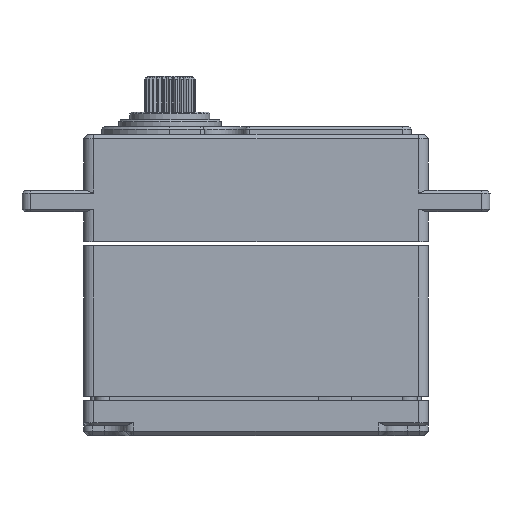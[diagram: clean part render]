
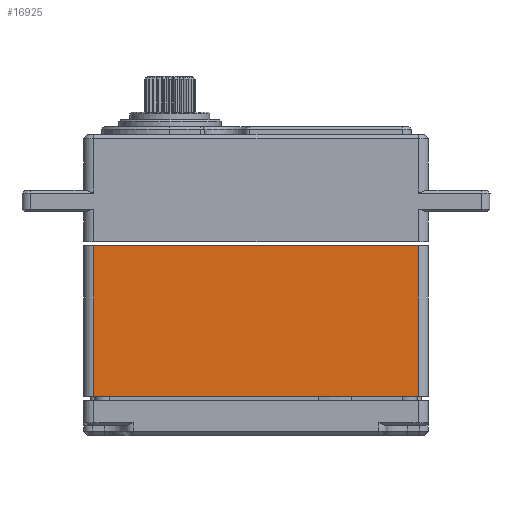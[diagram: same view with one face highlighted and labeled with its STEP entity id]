
A CAD part, front view. The second image highlights one B-rep face of the part: STEP entity #16925.
In plain terms, the highlighted planar face has unit normal (0, -1, 0).
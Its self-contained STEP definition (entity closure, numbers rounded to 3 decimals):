
#576 = DIRECTION ( 'NONE',  ( 0., 0., 1. ) ) ;
#842 = DIRECTION ( 'NONE',  ( 1., 0., 0. ) ) ;
#1919 = VECTOR ( 'NONE', #16546, 1000. ) ;
#2587 = ORIENTED_EDGE ( 'NONE', *, *, #9077, .T. ) ;
#2991 = LINE ( 'NONE', #10972, #17277 ) ;
#3475 = VERTEX_POINT ( 'NONE', #4773 ) ;
#3891 = LINE ( 'NONE', #5043, #13069 ) ;
#4773 = CARTESIAN_POINT ( 'NONE',  ( 7.732, -10.549, 6.95 ) ) ;
#5043 = CARTESIAN_POINT ( 'NONE',  ( 45.832, -10.549, 6.95 ) ) ;
#5560 = LINE ( 'NONE', #15120, #1919 ) ;
#6097 = PLANE ( 'NONE',  #16532 ) ;
#6184 = EDGE_LOOP ( 'NONE', ( #17652, #17047, #18657, #2587 ) ) ;
#6913 = EDGE_CURVE ( 'NONE', #16254, #10832, #19711, .T. ) ;
#6961 = CARTESIAN_POINT ( 'NONE',  ( 45.832, -10.549, -10.75 ) ) ;
#7092 = FACE_OUTER_BOUND ( 'NONE', #6184, .T. ) ;
#8793 = CARTESIAN_POINT ( 'NONE',  ( 7.732, -10.549, -10.75 ) ) ;
#9077 = EDGE_CURVE ( 'NONE', #3475, #16254, #2991, .T. ) ;
#10277 = EDGE_CURVE ( 'NONE', #10832, #14794, #3891, .T. ) ;
#10487 = DIRECTION ( 'NONE',  ( 0., -1., 0. ) ) ;
#10832 = VERTEX_POINT ( 'NONE', #6961 ) ;
#10972 = CARTESIAN_POINT ( 'NONE',  ( 7.732, -10.549, 6.95 ) ) ;
#12592 = EDGE_CURVE ( 'NONE', #14794, #3475, #5560, .T. ) ;
#13069 = VECTOR ( 'NONE', #576, 1000. ) ;
#13661 = DIRECTION ( 'NONE',  ( 0., 0., -1. ) ) ;
#13833 = VECTOR ( 'NONE', #842, 1000. ) ;
#14421 = CARTESIAN_POINT ( 'NONE',  ( 45.832, -10.549, 6.95 ) ) ;
#14794 = VERTEX_POINT ( 'NONE', #14421 ) ;
#15120 = CARTESIAN_POINT ( 'NONE',  ( 45.832, -10.549, 6.95 ) ) ;
#16254 = VERTEX_POINT ( 'NONE', #8793 ) ;
#16532 = AXIS2_PLACEMENT_3D ( 'NONE', #18220, #10487, #13661 ) ;
#16546 = DIRECTION ( 'NONE',  ( -1., 0., 0. ) ) ;
#16925 = ADVANCED_FACE ( 'NONE', ( #7092 ), #6097, .T. ) ;
#17044 = DIRECTION ( 'NONE',  ( 0., 0., -1. ) ) ;
#17047 = ORIENTED_EDGE ( 'NONE', *, *, #10277, .T. ) ;
#17277 = VECTOR ( 'NONE', #17044, 1000. ) ;
#17652 = ORIENTED_EDGE ( 'NONE', *, *, #6913, .T. ) ;
#18220 = CARTESIAN_POINT ( 'NONE',  ( 45.832, -10.549, 6.95 ) ) ;
#18657 = ORIENTED_EDGE ( 'NONE', *, *, #12592, .T. ) ;
#19455 = CARTESIAN_POINT ( 'NONE',  ( 45.832, -10.549, -10.75 ) ) ;
#19711 = LINE ( 'NONE', #19455, #13833 ) ;
